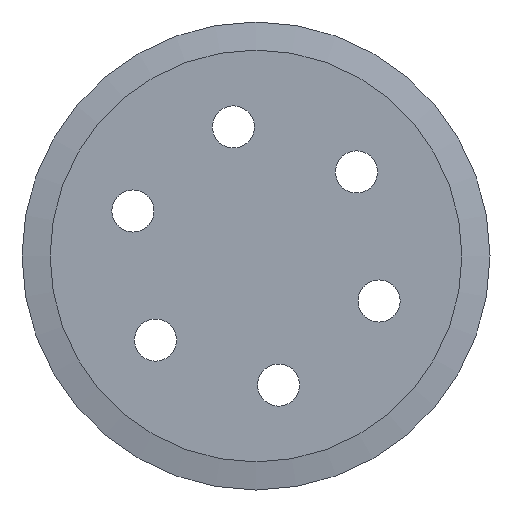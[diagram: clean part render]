
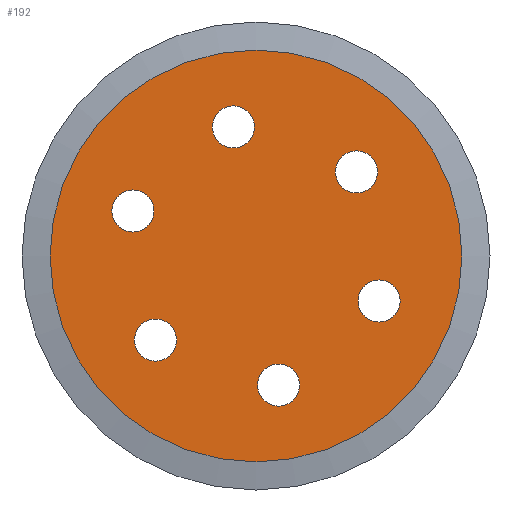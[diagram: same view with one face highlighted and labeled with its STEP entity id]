
A CAD part, front view. The second image highlights one B-rep face of the part: STEP entity #192.
In plain terms, the highlighted planar face has unit normal (0, -1, 0).
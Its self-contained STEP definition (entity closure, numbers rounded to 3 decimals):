
#22=FACE_BOUND('',#50,.T.);
#23=FACE_BOUND('',#51,.T.);
#24=FACE_BOUND('',#52,.T.);
#25=FACE_BOUND('',#53,.T.);
#26=FACE_BOUND('',#54,.T.);
#27=FACE_BOUND('',#55,.T.);
#29=PLANE('',#226);
#33=FACE_OUTER_BOUND('',#49,.T.);
#49=EDGE_LOOP('',(#151));
#50=EDGE_LOOP('',(#152));
#51=EDGE_LOOP('',(#153));
#52=EDGE_LOOP('',(#154));
#53=EDGE_LOOP('',(#155));
#54=EDGE_LOOP('',(#156));
#55=EDGE_LOOP('',(#157));
#87=CIRCLE('',#225,22.);
#88=CIRCLE('',#227,2.25);
#89=CIRCLE('',#228,2.25);
#90=CIRCLE('',#229,2.25);
#91=CIRCLE('',#230,2.25);
#92=CIRCLE('',#231,2.25);
#93=CIRCLE('',#232,2.25);
#103=VERTEX_POINT('',#324);
#104=VERTEX_POINT('',#328);
#105=VERTEX_POINT('',#330);
#106=VERTEX_POINT('',#332);
#107=VERTEX_POINT('',#334);
#108=VERTEX_POINT('',#336);
#109=VERTEX_POINT('',#338);
#121=EDGE_CURVE('',#103,#103,#87,.T.);
#122=EDGE_CURVE('',#104,#104,#88,.T.);
#123=EDGE_CURVE('',#105,#105,#89,.T.);
#124=EDGE_CURVE('',#106,#106,#90,.T.);
#125=EDGE_CURVE('',#107,#107,#91,.T.);
#126=EDGE_CURVE('',#108,#108,#92,.T.);
#127=EDGE_CURVE('',#109,#109,#93,.T.);
#151=ORIENTED_EDGE('',*,*,#121,.F.);
#152=ORIENTED_EDGE('',*,*,#122,.T.);
#153=ORIENTED_EDGE('',*,*,#123,.T.);
#154=ORIENTED_EDGE('',*,*,#124,.T.);
#155=ORIENTED_EDGE('',*,*,#125,.T.);
#156=ORIENTED_EDGE('',*,*,#126,.T.);
#157=ORIENTED_EDGE('',*,*,#127,.T.);
#192=ADVANCED_FACE('',(#33,#22,#23,#24,#25,#26,#27),#29,.F.);
#225=AXIS2_PLACEMENT_3D('',#326,#267,#268);
#226=AXIS2_PLACEMENT_3D('',#327,#269,#270);
#227=AXIS2_PLACEMENT_3D('',#329,#271,#272);
#228=AXIS2_PLACEMENT_3D('',#331,#273,#274);
#229=AXIS2_PLACEMENT_3D('',#333,#275,#276);
#230=AXIS2_PLACEMENT_3D('',#335,#277,#278);
#231=AXIS2_PLACEMENT_3D('',#337,#279,#280);
#232=AXIS2_PLACEMENT_3D('',#339,#281,#282);
#267=DIRECTION('center_axis',(0.,1.,0.));
#268=DIRECTION('ref_axis',(0.,0.,1.));
#269=DIRECTION('center_axis',(0.,1.,0.));
#270=DIRECTION('ref_axis',(0.,0.,1.));
#271=DIRECTION('center_axis',(0.,1.,0.));
#272=DIRECTION('ref_axis',(0.,0.,1.));
#273=DIRECTION('center_axis',(0.,1.,0.));
#274=DIRECTION('ref_axis',(0.,0.,1.));
#275=DIRECTION('center_axis',(0.,1.,0.));
#276=DIRECTION('ref_axis',(0.,0.,1.));
#277=DIRECTION('center_axis',(0.,1.,0.));
#278=DIRECTION('ref_axis',(0.,0.,1.));
#279=DIRECTION('center_axis',(0.,1.,0.));
#280=DIRECTION('ref_axis',(0.,0.,1.));
#281=DIRECTION('center_axis',(0.,1.,0.));
#282=DIRECTION('ref_axis',(0.,0.,1.));
#324=CARTESIAN_POINT('',(0.,0.,-22.));
#326=CARTESIAN_POINT('Origin',(0.,0.,0.));
#327=CARTESIAN_POINT('Origin',(0.,0.,0.));
#328=CARTESIAN_POINT('',(2.411,0.,-16.041));
#329=CARTESIAN_POINT('Origin',(2.411,0.,-13.791));
#330=CARTESIAN_POINT('',(13.149,0.,-7.058));
#331=CARTESIAN_POINT('Origin',(13.149,0.,-4.808));
#332=CARTESIAN_POINT('',(10.738,0.,6.733));
#333=CARTESIAN_POINT('Origin',(10.738,0.,8.983));
#334=CARTESIAN_POINT('',(-2.411,0.,11.541));
#335=CARTESIAN_POINT('Origin',(-2.411,0.,13.791));
#336=CARTESIAN_POINT('',(-13.149,0.,2.558));
#337=CARTESIAN_POINT('Origin',(-13.149,0.,4.808));
#338=CARTESIAN_POINT('',(-10.738,0.,-11.233));
#339=CARTESIAN_POINT('Origin',(-10.738,0.,-8.983));
